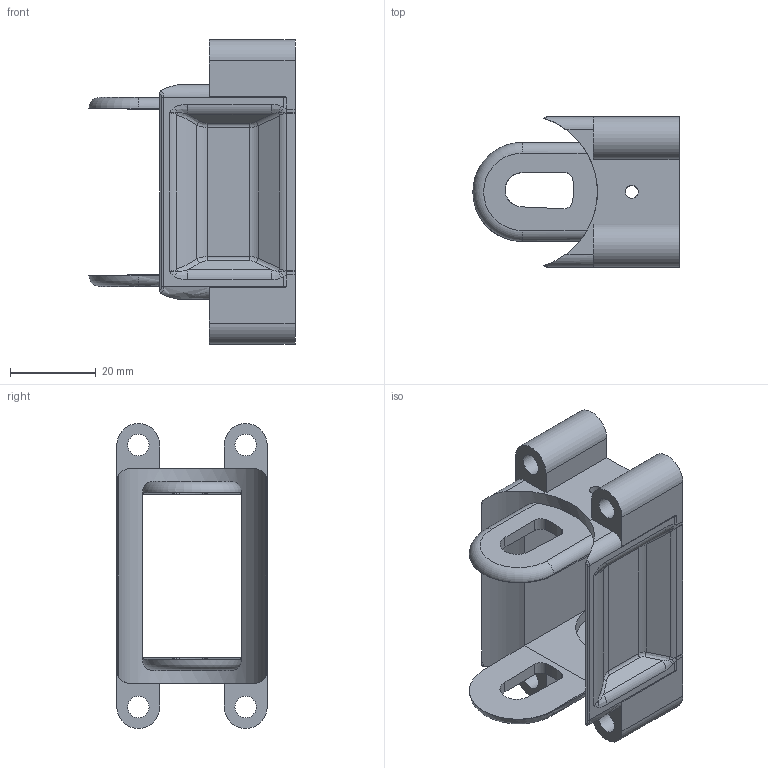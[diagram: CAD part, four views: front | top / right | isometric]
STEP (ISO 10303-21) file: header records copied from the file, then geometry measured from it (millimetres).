
FILE_DESCRIPTION((''),'2;1');
FILE_NAME('E:\Uebbing\temp\PFR 122\PFR 122 Stirnflanschanschluss01.stp','2010-08-16T11:16:27',('UebbingXP'),(''),'Autodesk Inventor 10','Autodesk Inventor 10','');
FILE_SCHEMA(('AUTOMOTIVE_DESIGN { 1 0 10303 214 1 1 1 1 }'));
Length unit declared in the file: millimetre
Products named in the file (1): PFR 122 Stirnflanschanschluss01
Bounding box: 48 x 35 x 70.98 mm (x, y, z)
Volume: 21823.2 mm3; surface area: 15201.7 mm2
Topology: 1 solids, 1 shells, 180 faces, 464 edges, 282 vertices
Faces by surface type: bspline 102, plane 39, cylinder 36, torus 3
Full cylindrical faces by diameter (mm): 3 x1, 5 x2
Entity records: 7844 total; most frequent: CARTESIAN_POINT 3819, ORIENTED_EDGE 908, DIRECTION 698, EDGE_CURVE 454, VERTEX_POINT 282, AXIS2_PLACEMENT_3D 237, VECTOR 224, LINE 224
